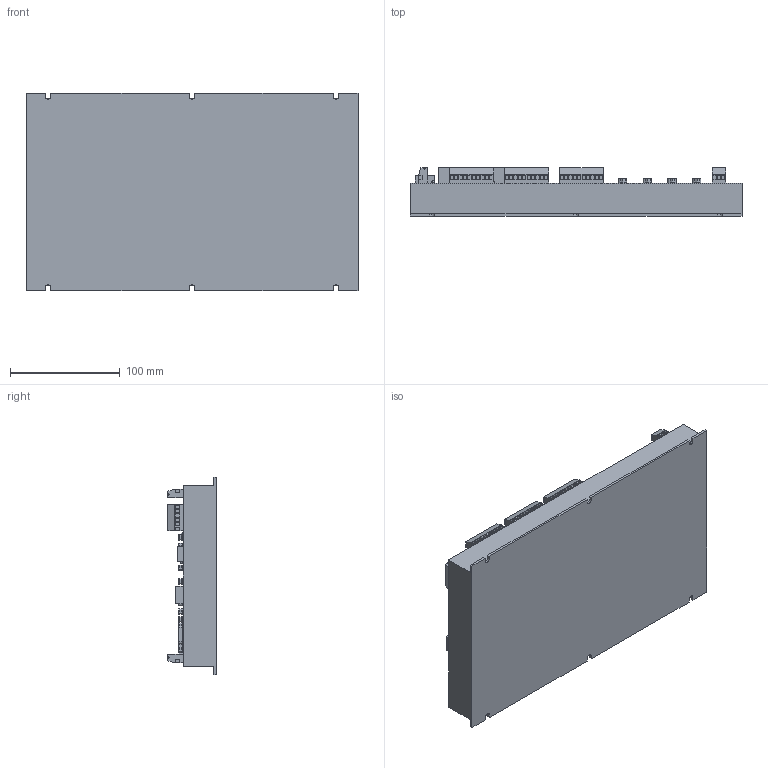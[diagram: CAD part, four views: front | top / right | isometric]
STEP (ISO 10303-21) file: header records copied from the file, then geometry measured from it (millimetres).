
FILE_DESCRIPTION (( 'STEP AP214' ), '1' );
FILE_NAME ('ZMC316.STEP', '2018-08-24T09:44:33', ( 'Microsoft' ), ( ' ' ), 'SwSTEP 2.0', 'SolidWorks 2014', '' );
FILE_SCHEMA (( 'AUTOMOTIVE_DESIGN' ));
Length unit declared in the file: millimetre
Products named in the file (11): 厙諳-傻; 三连灯; 傷赽-苤-6; 傷赽-苤-3; 傷赽-苤-10; 腑; U攫; 9渀-2齬-譫芛; 9渀-2齬-鼠芛; ZMC316-俋褲; ZMC316
Assembly tree (34 placements, depth 3):
  ZMC316
    ZMC316-俋褲
    9渀-2齬-鼠芛  x4
    9渀-2齬-譫芛  x15
    U攫
    腑
    傷赽-苤-10  x5
    傷赽-苤-3
    傷赽-苤-6
    三连灯
      腑  x3
    厙諳-傻
Bounding box: 302 x 44 x 180 mm (x, y, z)
Volume: 1527495.5 mm3; surface area: 167285.9 mm2
Topology: 120 solids, 120 shells, 3369 faces, 8397 edges, 5594 vertices
Faces by surface type: plane 2325, cylinder 648, bspline 388, sphere 8
Entity records: 73399 total; most frequent: CARTESIAN_POINT 27852, ORIENTED_EDGE 9766, DIRECTION 7333, EDGE_CURVE 4883, LINE 3813, VECTOR 3813, VERTEX_POINT 3255, EDGE_LOOP 1894
